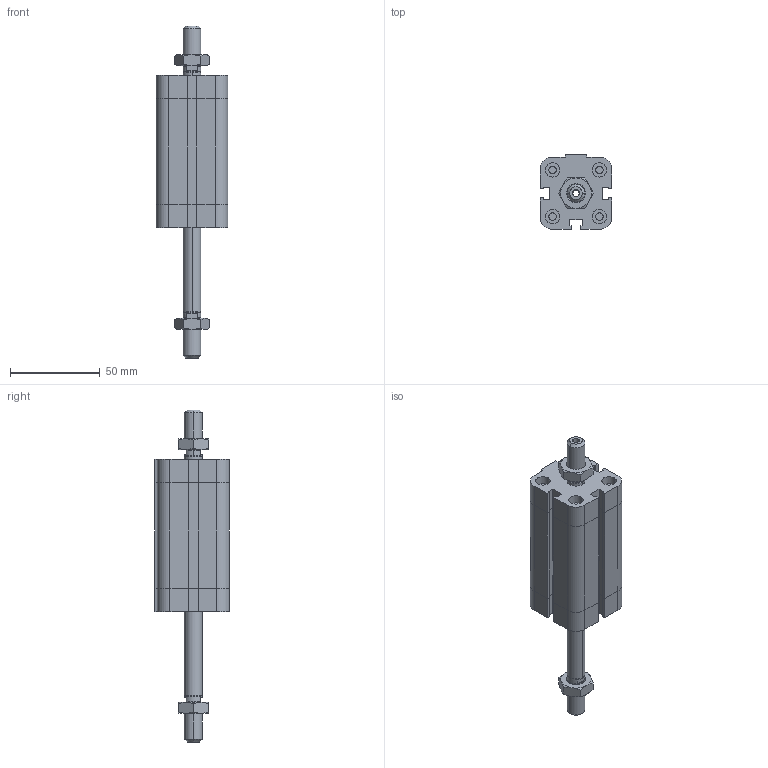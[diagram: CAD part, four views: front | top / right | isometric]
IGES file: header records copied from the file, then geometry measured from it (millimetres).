
Global section: file name: No Iges File Name specified; native system: Autodesk Inventor 2009; preprocessor: AutoDesk Inventor Iges Exporter R2009; author: maffial1; date: 20090420.142659; units: millimetre
Bounding box: 40 x 41.5 x 184.5 mm (x, y, z)
Volume: 128809 mm3; surface area: 34148.7 mm2
Topology: 4 solids, 4 shells, 262 faces, 580 edges, 346 vertices
Faces by surface type: plane 129, bspline 53, cone 38, cylinder 22, revolution 20
